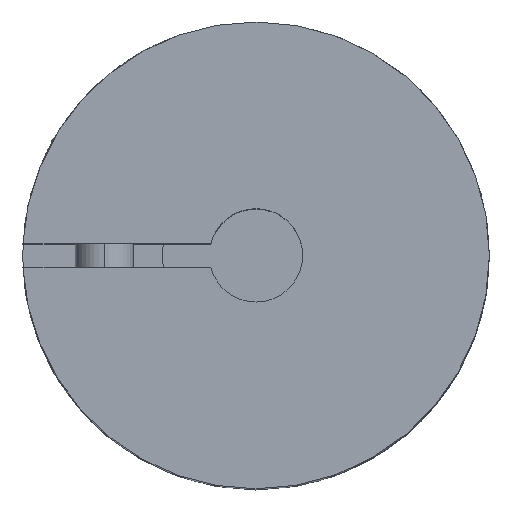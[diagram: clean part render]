
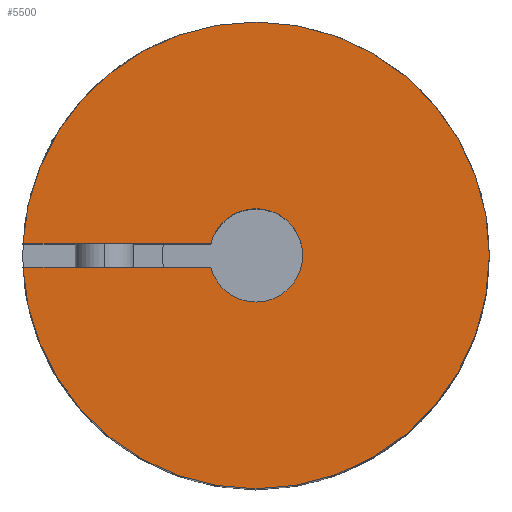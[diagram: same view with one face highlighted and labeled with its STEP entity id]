
A CAD part, top view. The second image highlights one B-rep face of the part: STEP entity #5500.
In plain terms, the highlighted planar face has unit normal (0, 0, 1).
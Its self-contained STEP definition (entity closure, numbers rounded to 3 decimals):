
#9 = CARTESIAN_POINT ( 'NONE',  ( 12.407, 48.356, 111.651 ) ) ;
#228 = VERTEX_POINT ( 'NONE', #9 ) ;
#229 = VERTEX_POINT ( 'NONE', #3722 ) ;
#232 = DIRECTION ( 'NONE',  ( 0., -1., 0. ) ) ;
#396 = CIRCLE ( 'NONE', #988, 10. ) ;
#490 = EDGE_CURVE ( 'NONE', #784, #228, #5673, .T. ) ;
#729 = AXIS2_PLACEMENT_3D ( 'NONE', #1690, #5669, #2284 ) ;
#784 = VERTEX_POINT ( 'NONE', #5662 ) ;
#836 = DIRECTION ( 'NONE',  ( 1., 0., 0. ) ) ;
#888 = CARTESIAN_POINT ( 'NONE',  ( 2.419, 49.856, 111.651 ) ) ;
#985 = CARTESIAN_POINT ( 'NONE',  ( 12.407, 50.356, 111.651 ) ) ;
#988 = AXIS2_PLACEMENT_3D ( 'NONE', #2004, #5944, #2580 ) ;
#1050 = CARTESIAN_POINT ( 'NONE',  ( 12.407, 40.356, 111.651 ) ) ;
#1397 = ORIENTED_EDGE ( 'NONE', *, *, #2571, .F. ) ;
#1563 = DIRECTION ( 'NONE',  ( 0., -1., 0. ) ) ;
#1690 = CARTESIAN_POINT ( 'NONE',  ( 12.407, 50.356, 111.651 ) ) ;
#1736 = CARTESIAN_POINT ( 'NONE',  ( 12.407, 50.356, 111.651 ) ) ;
#1975 = FACE_OUTER_BOUND ( 'NONE', #2588, .T. ) ;
#2004 = CARTESIAN_POINT ( 'NONE',  ( 12.407, 50.356, 111.651 ) ) ;
#2155 = DIRECTION ( 'NONE',  ( -1., 0., 0. ) ) ;
#2284 = DIRECTION ( 'NONE',  ( 0., -1., 0. ) ) ;
#2295 = CARTESIAN_POINT ( 'NONE',  ( 10.47, 50.856, 111.651 ) ) ;
#2297 = EDGE_CURVE ( 'NONE', #4737, #229, #2300, .T. ) ;
#2300 = LINE ( 'NONE', #6107, #3808 ) ;
#2316 = DIRECTION ( 'NONE',  ( 0., 1., 0. ) ) ;
#2511 = DIRECTION ( 'NONE',  ( 0., 0., 1. ) ) ;
#2571 = EDGE_CURVE ( 'NONE', #229, #5171, #3993, .T. ) ;
#2580 = DIRECTION ( 'NONE',  ( 0., -1., 0. ) ) ;
#2588 = EDGE_LOOP ( 'NONE', ( #1397, #3021, #6311, #7185, #4804, #4167, #4938, #3191 ) ) ;
#2845 = CARTESIAN_POINT ( 'NONE',  ( 12.407, 60.356, 111.651 ) ) ;
#3021 = ORIENTED_EDGE ( 'NONE', *, *, #2297, .F. ) ;
#3040 = EDGE_CURVE ( 'NONE', #4414, #4535, #396, .T. ) ;
#3055 = AXIS2_PLACEMENT_3D ( 'NONE', #1736, #5701, #2316 ) ;
#3082 = EDGE_CURVE ( 'NONE', #4535, #784, #3449, .T. ) ;
#3144 = CIRCLE ( 'NONE', #729, 10. ) ;
#3191 = ORIENTED_EDGE ( 'NONE', *, *, #6263, .F. ) ;
#3311 = CARTESIAN_POINT ( 'NONE',  ( 12.407, 50.356, 111.651 ) ) ;
#3449 = LINE ( 'NONE', #4290, #4599 ) ;
#3670 = DIRECTION ( 'NONE',  ( 0., 0., -1. ) ) ;
#3722 = CARTESIAN_POINT ( 'NONE',  ( 2.419, 50.856, 111.651 ) ) ;
#3808 = VECTOR ( 'NONE', #2155, 1000. ) ;
#3993 = CIRCLE ( 'NONE', #4633, 10. ) ;
#4167 = ORIENTED_EDGE ( 'NONE', *, *, #3082, .F. ) ;
#4290 = CARTESIAN_POINT ( 'NONE',  ( -12.958, 49.856, 111.651 ) ) ;
#4362 = AXIS2_PLACEMENT_3D ( 'NONE', #5885, #2511, #6463 ) ;
#4414 = VERTEX_POINT ( 'NONE', #1050 ) ;
#4452 = DIRECTION ( 'NONE',  ( 0., 1., 0. ) ) ;
#4535 = VERTEX_POINT ( 'NONE', #888 ) ;
#4599 = VECTOR ( 'NONE', #836, 1000. ) ;
#4633 = AXIS2_PLACEMENT_3D ( 'NONE', #985, #4987, #1563 ) ;
#4737 = VERTEX_POINT ( 'NONE', #2295 ) ;
#4770 = EDGE_CURVE ( 'NONE', #228, #6122, #6872, .T. ) ;
#4804 = ORIENTED_EDGE ( 'NONE', *, *, #490, .F. ) ;
#4938 = ORIENTED_EDGE ( 'NONE', *, *, #3040, .F. ) ;
#4976 = DIRECTION ( 'NONE',  ( 0., 0., 1. ) ) ;
#4987 = DIRECTION ( 'NONE',  ( 0., 0., -1. ) ) ;
#5169 = CIRCLE ( 'NONE', #4362, 2. ) ;
#5171 = VERTEX_POINT ( 'NONE', #2845 ) ;
#5323 = PLANE ( 'NONE',  #7004 ) ;
#5448 = EDGE_CURVE ( 'NONE', #6122, #4737, #5169, .T. ) ;
#5500 = ADVANCED_FACE ( 'NONE', ( #1975 ), #5323, .F. ) ;
#5662 = CARTESIAN_POINT ( 'NONE',  ( 10.47, 49.856, 111.651 ) ) ;
#5669 = DIRECTION ( 'NONE',  ( 0., 0., -1. ) ) ;
#5673 = CIRCLE ( 'NONE', #7044, 2. ) ;
#5701 = DIRECTION ( 'NONE',  ( 0., 0., 1. ) ) ;
#5885 = CARTESIAN_POINT ( 'NONE',  ( 12.407, 50.356, 111.651 ) ) ;
#5944 = DIRECTION ( 'NONE',  ( 0., 0., -1. ) ) ;
#6107 = CARTESIAN_POINT ( 'NONE',  ( -12.958, 50.856, 111.651 ) ) ;
#6122 = VERTEX_POINT ( 'NONE', #7180 ) ;
#6263 = EDGE_CURVE ( 'NONE', #5171, #4414, #3144, .T. ) ;
#6311 = ORIENTED_EDGE ( 'NONE', *, *, #5448, .F. ) ;
#6463 = DIRECTION ( 'NONE',  ( 0., 1., 0. ) ) ;
#6872 = CIRCLE ( 'NONE', #3055, 2. ) ;
#7004 = AXIS2_PLACEMENT_3D ( 'NONE', #7062, #3670, #232 ) ;
#7044 = AXIS2_PLACEMENT_3D ( 'NONE', #3311, #4976, #4452 ) ;
#7062 = CARTESIAN_POINT ( 'NONE',  ( 12.407, 50.356, 111.651 ) ) ;
#7180 = CARTESIAN_POINT ( 'NONE',  ( 12.407, 52.356, 111.651 ) ) ;
#7185 = ORIENTED_EDGE ( 'NONE', *, *, #4770, .F. ) ;
